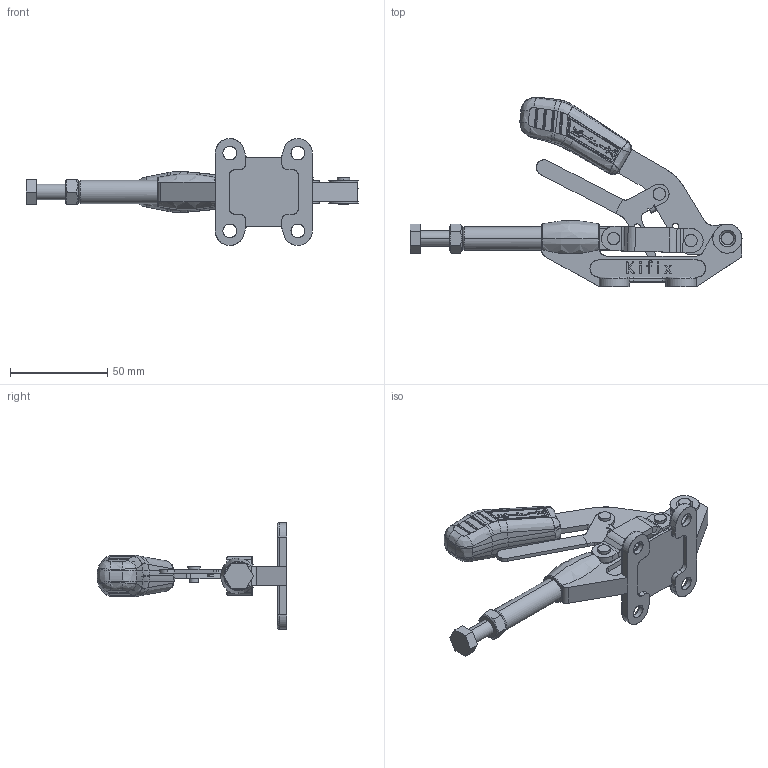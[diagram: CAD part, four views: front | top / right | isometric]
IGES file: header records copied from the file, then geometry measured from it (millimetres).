
Start section: SolidWorks IGES file using analytic representation for surfaces
Global section: file name: G:\Grampos\KF-057\KF-057 TR\KF-057 TR.IGS; native system: SolidWorks 2018; preprocessor: SolidWorks 2018; author: Ricardo.Sandi; date: 190111.094042; units: millimetre
Bounding box: 170.88 x 97.64 x 54.99 mm (x, y, z)
Surface area: 37606.5 mm2 (no closed solid volume)
Topology: 0 solids, 0 shells, 1169 faces, 11829 edges, 11767 vertices
Faces by surface type: bspline 753, revolution 416
